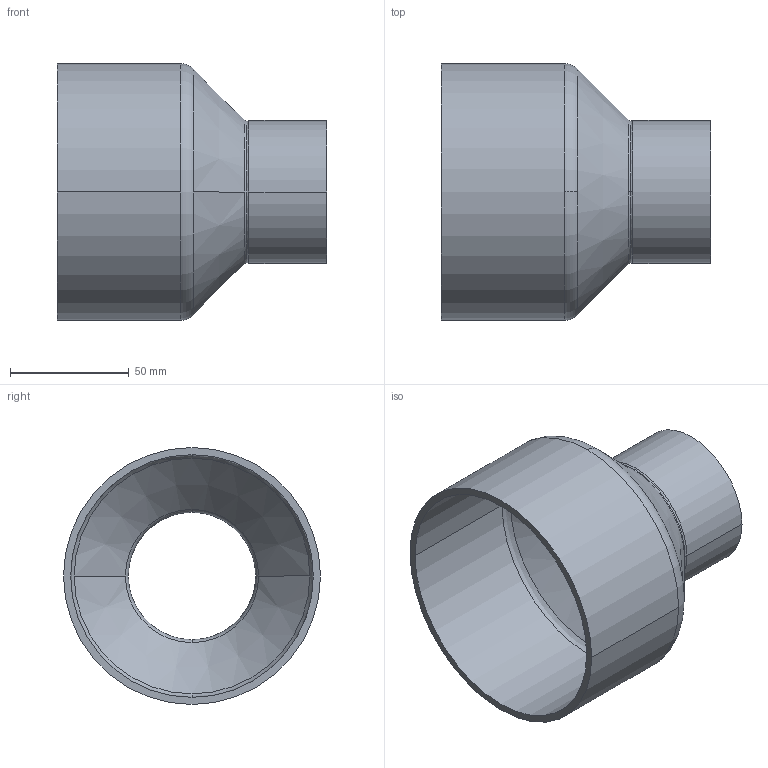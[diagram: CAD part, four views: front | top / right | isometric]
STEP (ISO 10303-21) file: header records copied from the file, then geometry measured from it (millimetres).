
FILE_DESCRIPTION((''),'2;1');
FILE_NAME('G:\Technics\CAD\Bauteile\Serie 15243\1524310854.stp','2005-10-21T12:49:53',('boden'),(''),'Autodesk Inventor 8','Autodesk Inventor 8','');
FILE_SCHEMA(('AUTOMOTIVE_DESIGN { 1 0 10303 214 1 1 1 1 }'));
Length unit declared in the file: millimetre
Products named in the file (1): 1524310854
Bounding box: 113.3 x 108 x 108 mm (x, y, z)
Volume: 98261.4 mm3; surface area: 67038.4 mm2
Topology: 1 solids, 1 shells, 26 faces, 68 edges, 44 vertices
Faces by surface type: cylinder 8, torus 6, bspline 6, cone 4, plane 2
Entity records: 1103 total; most frequent: CARTESIAN_POINT 403, DIRECTION 166, ORIENTED_EDGE 136, AXIS2_PLACEMENT_3D 77, EDGE_CURVE 68, CIRCLE 56, VERTEX_POINT 44, EDGE_LOOP 28
